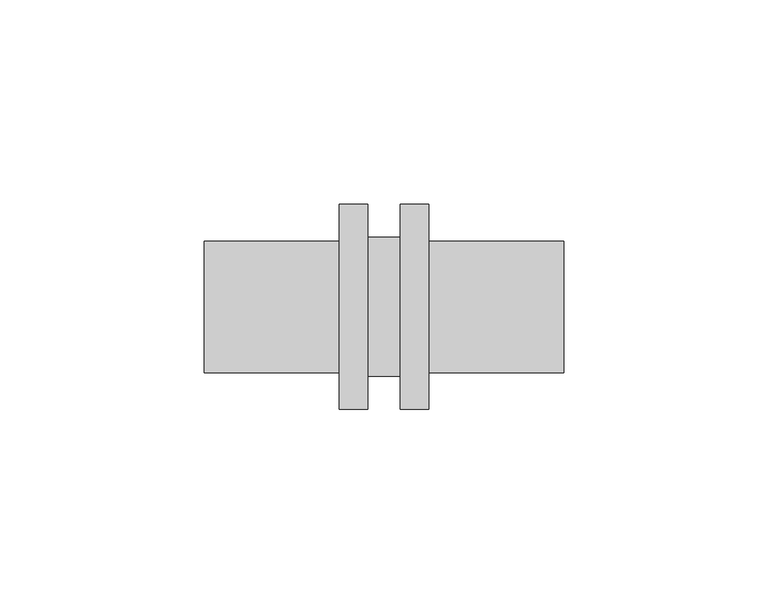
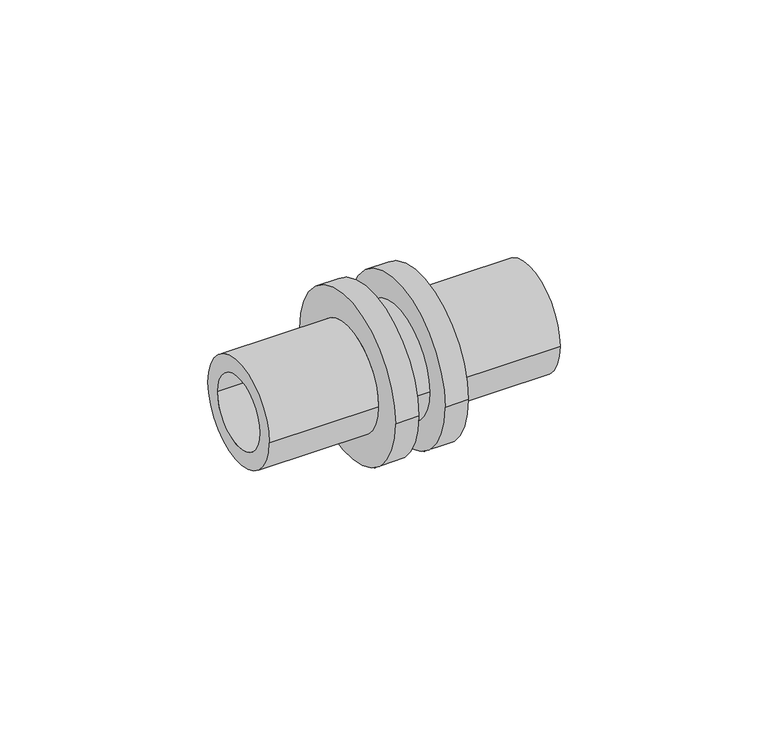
"""IFC4 building model written with IfcOpenShell, lengths in millimetres: pipe fitting geometry, RAUTITAN_Union_PX : RTI PX U DE."""

from ifc_helpers import new_model, si_unit, frame, origin, place, context, project, spatial, polyline, circle_curve, source, transform, mapped, element, save
from ifc_brep_helpers import plane_surface, cylinder_surface, revolved_surface, advanced_brep


def pipe_fitting_0a6e0220(model_context):
    return source(origin(), model_context, "Body", "AdvancedBrep", [
        advanced_brep(
        [(-44.0, 11.0, 0.0), (-44.0, -11.0, 0.0), (44.0, -11.0, 0.0), (44.0, 11.0, 0.0), (-11.0, 16.1, 0.0), (-11.0, -16.1, 0.0), (-44.0, -16.1, 0.0), (-44.0, 16.1, 0.0), (-4.0, 25.1, 0.0), (-4.0, -25.1, 0.0), (-11.0, -25.1, 0.0), (-11.0, 25.1, 0.0), (4.0, 17.0, 0.0), (4.0, -17.0, 0.0), (-4.0, -17.0, 0.0), (-4.0, 17.0, 0.0), (11.0, 25.1, 0.0), (11.0, -25.1, 0.0), (4.0, -25.1, 0.0), (4.0, 25.1, 0.0), (44.0, 16.1, 0.0), (44.0, -16.1, 0.0), (11.0, -16.1, 0.0), (11.0, 16.1, 0.0)],
        [
            (0, 1, circle_curve(frame((-44.0, 0.0, 0.0), z_axis=(-1.0, 0.0, 0.0), x_axis=(0.0, -1.0, 0.0)), 11.0)),
            (1, 2),
            (2, 3, circle_curve(frame((44.0, 0.0, 0.0), z_axis=(1.0, 0.0, 0.0), x_axis=(0.0, -1.0, 0.0)), 11.0)),
            (3, 0),
            (4, 5, circle_curve(frame((-11.0, 0.0, 0.0), z_axis=(-1.0, 0.0, 0.0), x_axis=(0.0, -1.0, 0.0)), 16.1)),
            (5, 6),
            (6, 7, circle_curve(frame((-44.0, 0.0, 0.0), z_axis=(1.0, 0.0, 0.0), x_axis=(0.0, -1.0, 0.0)), 16.1)),
            (7, 4),
            (8, 9, circle_curve(frame((-4.0, 0.0, 0.0), z_axis=(-1.0, 0.0, 0.0), x_axis=(0.0, -1.0, 0.0)), 25.1)),
            (9, 10),
            (10, 11, circle_curve(frame((-11.0, 0.0, 0.0), z_axis=(1.0, 0.0, 0.0), x_axis=(0.0, -1.0, 0.0)), 25.1)),
            (11, 8),
            (12, 13, circle_curve(frame((4.0, 0.0, 0.0), z_axis=(-1.0, 0.0, 0.0), x_axis=(0.0, -1.0, 0.0)), 17.0)),
            (13, 14),
            (14, 15, circle_curve(frame((-4.0, 0.0, 0.0), z_axis=(1.0, 0.0, 0.0), x_axis=(0.0, -1.0, 0.0)), 17.0)),
            (15, 12),
            (16, 17, circle_curve(frame((11.0, 0.0, 0.0), z_axis=(-1.0, 0.0, 0.0), x_axis=(0.0, -1.0, 0.0)), 25.1)),
            (17, 18),
            (18, 19, circle_curve(frame((4.0, 0.0, 0.0), z_axis=(1.0, 0.0, 0.0), x_axis=(0.0, -1.0, 0.0)), 25.1)),
            (19, 16),
            (20, 21, circle_curve(frame((44.0, 0.0, 0.0), z_axis=(-1.0, 0.0, 0.0), x_axis=(0.0, -1.0, 0.0)), 16.1)),
            (21, 22),
            (22, 23, circle_curve(frame((11.0, 0.0, 0.0), z_axis=(1.0, 0.0, 0.0), x_axis=(0.0, -1.0, 0.0)), 16.1)),
            (23, 20),
            (1, 0, circle_curve(frame((-44.0, 0.0, 0.0), z_axis=(-1.0, 0.0, 0.0), x_axis=(0.0, 1.0, 0.0)), 11.0)),
            (3, 2, circle_curve(frame((44.0, 0.0, 0.0), z_axis=(1.0, 0.0, 0.0), x_axis=(0.0, 1.0, 0.0)), 11.0)),
            (6, 7, circle_curve(frame((-44.0, 0.0, 0.0), z_axis=(-1.0, 0.0, 0.0), x_axis=(0.0, 1.0, 0.0)), 16.1)),
            (5, 4, circle_curve(frame((-11.0, 0.0, 0.0), z_axis=(-1.0, 0.0, 0.0), x_axis=(0.0, 1.0, 0.0)), 16.1)),
            (10, 11, circle_curve(frame((-11.0, 0.0, 0.0), z_axis=(-1.0, 0.0, 0.0), x_axis=(0.0, 1.0, 0.0)), 25.1)),
            (9, 8, circle_curve(frame((-4.0, 0.0, 0.0), z_axis=(-1.0, 0.0, 0.0), x_axis=(0.0, 1.0, 0.0)), 25.1)),
            (14, 15, circle_curve(frame((-4.0, 0.0, 0.0), z_axis=(-1.0, 0.0, 0.0), x_axis=(0.0, 1.0, 0.0)), 17.0)),
            (13, 12, circle_curve(frame((4.0, 0.0, 0.0), z_axis=(-1.0, 0.0, 0.0), x_axis=(0.0, 1.0, 0.0)), 17.0)),
            (18, 19, circle_curve(frame((4.0, 0.0, 0.0), z_axis=(-1.0, 0.0, 0.0), x_axis=(0.0, 1.0, 0.0)), 25.1)),
            (17, 16, circle_curve(frame((11.0, 0.0, 0.0), z_axis=(-1.0, 0.0, 0.0), x_axis=(0.0, 1.0, 0.0)), 25.1)),
            (22, 23, circle_curve(frame((11.0, 0.0, 0.0), z_axis=(-1.0, 0.0, 0.0), x_axis=(0.0, 1.0, 0.0)), 16.1)),
            (21, 20, circle_curve(frame((44.0, 0.0, 0.0), z_axis=(-1.0, 0.0, 0.0), x_axis=(0.0, 1.0, 0.0)), 16.1)),
        ],
        [
            revolved_surface(polyline([(44.0, -11.0, 0.0), (-44.0, -11.0, 0.0)]), (0.0, 0.0, 0.0), (1.0, 0.0, 0.0)),
            cylinder_surface(frame((0.0, 0.0, 0.0), z_axis=(1.0, 0.0, 0.0), x_axis=(0.0, -1.0, 0.0)), 16.1),
            cylinder_surface(frame((0.0, 0.0, 0.0), z_axis=(1.0, 0.0, 0.0), x_axis=(0.0, -1.0, 0.0)), 25.1),
            cylinder_surface(frame((0.0, 0.0, 0.0), z_axis=(1.0, 0.0, 0.0), x_axis=(0.0, -1.0, 0.0)), 17.0),
            revolved_surface(polyline([(44.0, 11.0, 0.0), (-44.0, 11.0, 0.0)]), (0.0, 0.0, 0.0), (1.0, 0.0, 0.0)),
            plane_surface(frame((-44.0, 0.0, 0.0), z_axis=(-1.0, 0.0, 0.0), x_axis=(0.0, 1.0, 0.0))),
            cylinder_surface(frame((0.0, 0.0, 0.0), z_axis=(1.0, 0.0, 0.0), x_axis=(0.0, 1.0, 0.0)), 16.1),
            plane_surface(frame((-11.0, 0.0, 0.0), z_axis=(-1.0, 0.0, 0.0), x_axis=(0.0, 1.0, 0.0))),
            cylinder_surface(frame((0.0, 0.0, 0.0), z_axis=(1.0, 0.0, 0.0), x_axis=(0.0, 1.0, 0.0)), 25.1),
            plane_surface(frame((-4.0, 0.0, 0.0), z_axis=(1.0, 0.0, 0.0), x_axis=(0.0, 1.0, 0.0))),
            cylinder_surface(frame((0.0, 0.0, 0.0), z_axis=(1.0, 0.0, 0.0), x_axis=(0.0, 1.0, 0.0)), 17.0),
            plane_surface(frame((4.0, 0.0, 0.0), z_axis=(-1.0, 0.0, 0.0), x_axis=(0.0, 1.0, 0.0))),
            plane_surface(frame((11.0, 0.0, 0.0), z_axis=(1.0, 0.0, 0.0), x_axis=(0.0, 1.0, 0.0))),
            plane_surface(frame((44.0, 0.0, 0.0), z_axis=(1.0, 0.0, 0.0), x_axis=(0.0, 1.0, 0.0))),
        ],
        [
            (0, [[1, 2, 3, 4]]),
            (1, [[5, 6, 7, 8]]),
            (2, [[9, 10, 11, 12]]),
            (3, [[13, 14, 15, 16]]),
            (2, [[17, 18, 19, 20]]),
            (1, [[21, 22, 23, 24]]),
            (4, [[25, -4, 26, -2]]),
            (5, [[27, -7], [-25, -1]]),
            (6, [[28, -8, -27, -6]]),
            (7, [[29, -11], [-28, -5]]),
            (8, [[30, -12, -29, -10]]),
            (9, [[-30, -9], [31, -15]]),
            (10, [[32, -16, -31, -14]]),
            (11, [[33, -19], [-32, -13]]),
            (8, [[34, -20, -33, -18]]),
            (12, [[-34, -17], [35, -23]]),
            (6, [[36, -24, -35, -22]]),
            (13, [[-36, -21], [-26, -3]]),
        ],
    ),
    ])


if __name__ == "__main__":
    model = new_model("IFC4")
    model_context = context("Model", 3, world=origin())
    ifc_project = project(units=[si_unit("LENGTHUNIT", "METRE", prefix="MILLI")], contexts=[model_context])
    site = spatial("IfcSite", under=ifc_project)
    building = spatial("IfcBuilding", under=site)
    placement = place(None, origin())
    pipe_fitting_shape = pipe_fitting_0a6e0220(model_context)
    element("IfcPipeFitting", 1, ObjectType="RAUTITAN_Union_PX : RTI PX U DE", at=placement, inside=building, context=model_context, shape_type="MappedRepresentation", body=[
        mapped(pipe_fitting_shape, transform((0.0, 0.0, 0.0), x_axis=(1.0, 0.0, 0.0), y_axis=(0.0, 1.0, 0.0), z_axis=(0.0, 0.0, 1.0))),
    ])
    save(model, "model.ifc")
